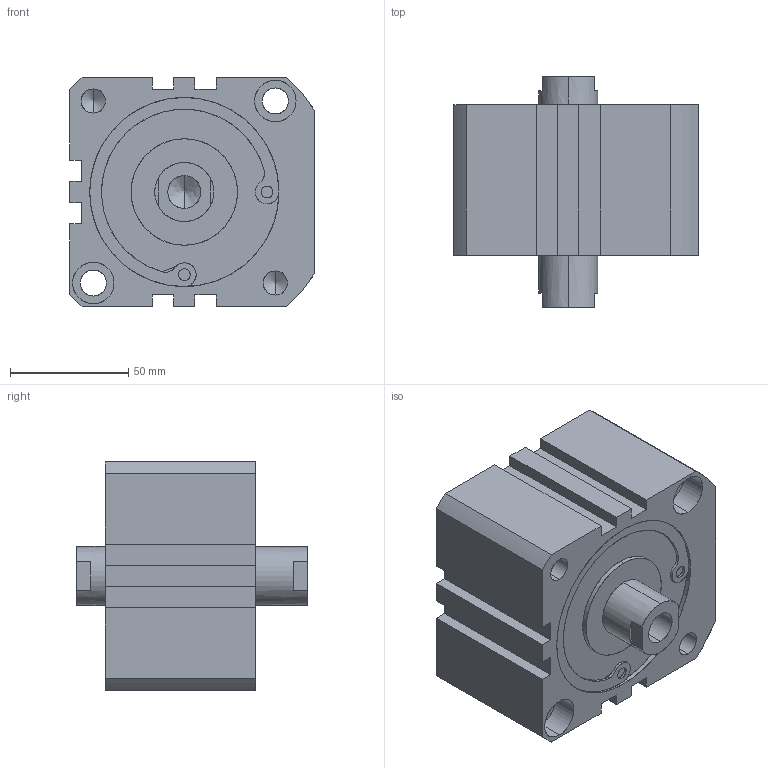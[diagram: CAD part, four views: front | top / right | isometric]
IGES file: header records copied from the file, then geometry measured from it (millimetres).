
Start section: SolidWorks IGES file using analytic representation for surfaces
Global section: file name: C:\Users\Toshiba\Desktop\XC#7-80-10.IGS; native system: SolidWorks 2014; preprocessor: SolidWorks 2014; author: Toshiba; date: 160523.162742; units: millimetre
Bounding box: 103.5 x 97.5 x 97 mm (x, y, z)
Surface area: 63961.6 mm2 (no closed solid volume)
Topology: 0 solids, 0 shells, 142 faces, 2638 edges, 2630 vertices
Faces by surface type: revolution 86, bspline 56
